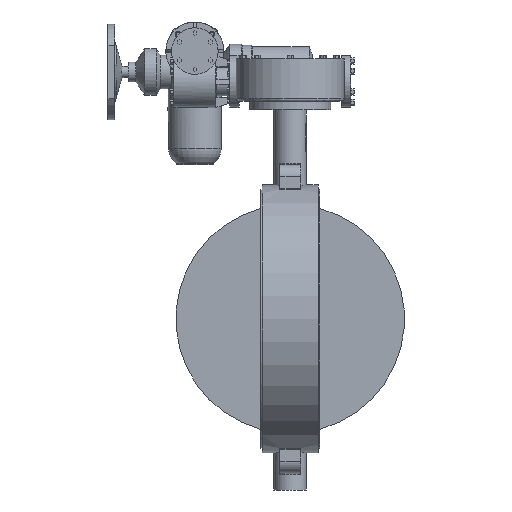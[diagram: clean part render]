
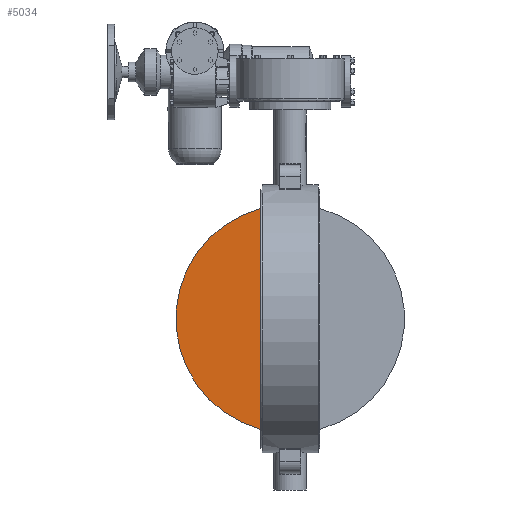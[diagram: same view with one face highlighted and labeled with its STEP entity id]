
A CAD part, front view. The second image highlights one B-rep face of the part: STEP entity #5034.
In plain terms, the highlighted planar face has unit normal (0, -1, 0).
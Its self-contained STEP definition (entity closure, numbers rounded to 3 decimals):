
#5034=ADVANCED_FACE('',(#9388),#9390,.T.);
#9388=FACE_BOUND('',#9389,.T.);
#9389=EDGE_LOOP('',(#12070,#12071));
#9390=PLANE('',#9391);
#9391=AXIS2_PLACEMENT_3D('',#9392,#9393,#9394);
#9392=CARTESIAN_POINT('',(0.,-7.5,0.));
#9393=DIRECTION('',(0.,-1.,0.));
#9394=DIRECTION('',(0.,0.,1.));
#12070=ORIENTED_EDGE('',*,*,#13403,.T.);
#12071=ORIENTED_EDGE('',*,*,#13409,.T.);
#13403=EDGE_CURVE('',#15654,#15651,#15655,.F.);
#13409=EDGE_CURVE('',#15651,#15654,#15662,.T.);
#15651=VERTEX_POINT('',#23289);
#15654=VERTEX_POINT('',#23331);
#15655=LINE('',#23332,#23333);
#15662=CIRCLE('',#23391,245.82);
#23289=CARTESIAN_POINT('',(-23.848,-7.5,244.66));
#23331=CARTESIAN_POINT('',(-23.848,-7.5,-244.66));
#23332=CARTESIAN_POINT('',(-23.848,-7.5,244.66));
#23333=VECTOR('',#23334,1.);
#23334=DIRECTION('',(0.,0.,-1.));
#23391=AXIS2_PLACEMENT_3D('',#23392,#23393,#23394);
#23392=CARTESIAN_POINT('',(0.,-7.5,0.));
#23393=DIRECTION('',(0.,-1.,0.));
#23394=DIRECTION('',(-0.097,0.,0.995));
